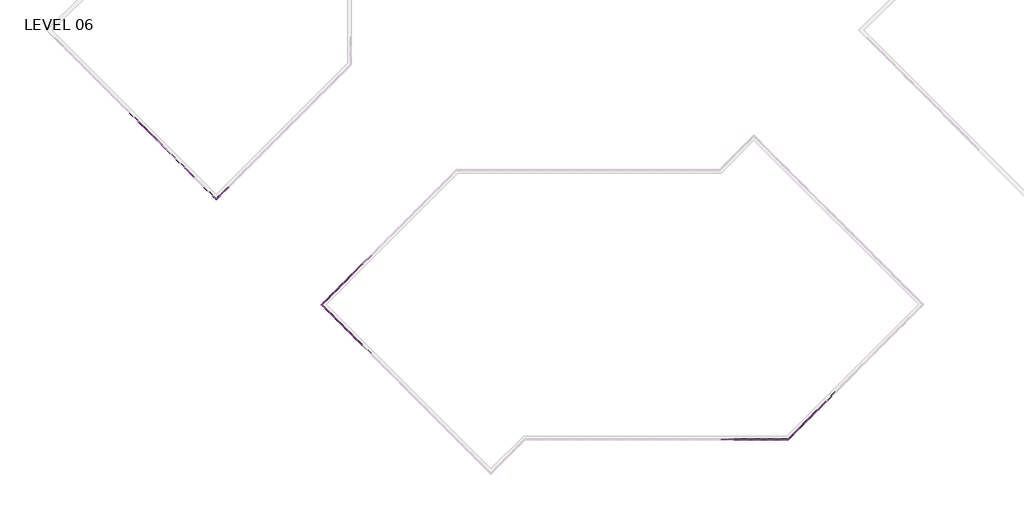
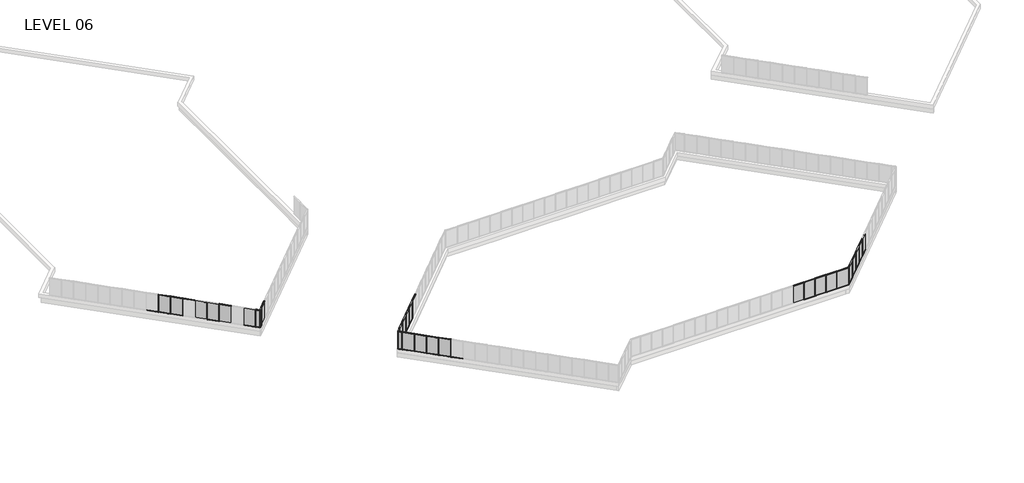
# One storey, part 2 of 17: 84 members, 29 plates.
"""IFC4 building model written with IfcOpenShell, lengths in millimetres."""

from ifc_helpers import new_model, si_unit, origin, place, context, project, spatial, transform, mapped, element, save
from components import member_5247f267, member_e44af9ab, member_800970d4, member_1bd862b2, member_7ca0f77f, member_25b26a38, member_ed9c17d6, plate_67294edd, plate_bbcbcabf, plate_3fb62afd, plate_6d527a83, plate_e0fd5134, plate_62af1d3c, plate_048e4634

model = new_model("IFC4")

# Units and contexts
model_context = context("Model", 3, world=origin())
ifc_project = project(units=[si_unit("LENGTHUNIT", "METRE", prefix="MILLI")], contexts=[model_context])

# Site, building, storey
site = spatial("IfcSite", under=ifc_project)
building = spatial("IfcBuilding", under=site)
storey = spatial("IfcBuildingStorey", under=building, Name="LEVEL 06", Elevation=19596.1)

# Members
placement = place(None, origin())
member_shape = member_5247f267(model_context)
element("IfcMember", 1, ObjectType="Rectangular Mullion : 2\" x 4.5\" rectangular", at=placement, inside=storey, context=model_context, shape_type="MappedRepresentation", body=[
    mapped(member_shape, transform((44329.35, -5092.0171279, 19596.1), x_axis=(0.0, 0.0, -1.0), y_axis=(0.0, -1.0, 0.0), z_axis=(-1.0, 0.0, 0.0))),
])
element("IfcMember", 2, ObjectType="Rectangular Mullion : 2\" x 4.5\" rectangular", at=placement, inside=storey, context=model_context, shape_type="MappedRepresentation", body=[
    mapped(member_shape, transform((45853.35, -5092.0171279, 19596.1), x_axis=(0.0, 0.0, -1.0), y_axis=(0.0, -1.0, 0.0), z_axis=(-1.0, 0.0, 0.0))),
])
element("IfcMember", 3, ObjectType="Rectangular Mullion : 2\" x 4.5\" rectangular", at=placement, inside=storey, context=model_context, shape_type="MappedRepresentation", body=[
    mapped(member_shape, transform((42805.35, -5092.0171279, 19596.1), x_axis=(0.0, 0.0, -1.0), y_axis=(0.0, -1.0, 0.0), z_axis=(-1.0, 0.0, 0.0))),
])
element("IfcMember", 4, ObjectType="Rectangular Mullion : 2\" x 4.5\" rectangular", at=placement, inside=storey, context=model_context, shape_type="MappedRepresentation", body=[
    mapped(member_shape, transform((50254.2406419, -3879.4326216, 19596.1), x_axis=(0.0, 0.0, -1.0), y_axis=(0.7071067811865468, -0.7071067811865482, 0.0), z_axis=(-0.7071067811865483, -0.7071067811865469, 0.0))),
])
element("IfcMember", 5, ObjectType="Rectangular Mullion : 2\" x 4.5\" rectangular", at=placement, inside=storey, context=model_context, shape_type="MappedRepresentation", body=[
    mapped(member_shape, transform((51331.8713765, -2801.801887, 19596.1), x_axis=(0.0, 0.0, -1.0), y_axis=(0.7071067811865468, -0.7071067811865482, 0.0), z_axis=(-0.7071067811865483, -0.7071067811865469, 0.0))),
])
element("IfcMember", 6, ObjectType="Rectangular Mullion : 2\" x 4.5\" rectangular", at=placement, inside=storey, context=model_context, shape_type="MappedRepresentation", body=[
    mapped(member_shape, transform((52409.502111, -1724.1711525, 19596.1), x_axis=(0.0, 0.0, -1.0), y_axis=(0.7071067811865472, -0.7071067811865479, 0.0), z_axis=(-0.7071067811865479, -0.7071067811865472, 0.0))),
])
element("IfcMember", 7, ObjectType="Rectangular Mullion : 2\" x 4.5\" rectangular", at=placement, inside=storey, context=model_context, shape_type="MappedRepresentation", body=[
    mapped(member_shape, transform((53487.1328455, -646.540418, 19596.1), x_axis=(0.0, 0.0, -1.0), y_axis=(0.7071067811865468, -0.7071067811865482, 0.0), z_axis=(-0.7071067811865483, -0.7071067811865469, 0.0))),
])
element("IfcMember", 8, ObjectType="Rectangular Mullion : 2\" x 4.5\" rectangular", at=placement, inside=storey, context=model_context, shape_type="MappedRepresentation", body=[
    mapped(member_shape, transform((-1378.4693146, 14091.4196932, 19596.1), x_axis=(0.0, 0.0, -1.0), y_axis=(-0.7071067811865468, 0.7071067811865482, 0.0), z_axis=(0.7071067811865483, 0.7071067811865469, 0.0))),
])
element("IfcMember", 9, ObjectType="Rectangular Mullion : 2\" x 4.5\" rectangular", at=placement, inside=storey, context=model_context, shape_type="MappedRepresentation", body=[
    mapped(member_shape, transform((-300.8459809, 15169.0430268, 19596.1), x_axis=(0.0, 0.0, -1.0), y_axis=(-0.7071067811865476, 0.7071067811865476, 0.0), z_axis=(0.7071067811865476, 0.7071067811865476, 0.0))),
])
element("IfcMember", 10, ObjectType="Rectangular Mullion : 2\" x 4.5\" rectangular", at=placement, inside=storey, context=model_context, shape_type="MappedRepresentation", body=[
    mapped(member_shape, transform((-2456.1000491, 13013.7889586, 19596.1), x_axis=(0.0, 0.0, -1.0), y_axis=(-0.7071067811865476, 0.7071067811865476, 0.0), z_axis=(0.7071067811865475, 0.7071067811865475, 0.0))),
])
element("IfcMember", 11, ObjectType="Rectangular Mullion : 2\" x 4.5\" rectangular", at=placement, inside=storey, context=model_context, shape_type="MappedRepresentation", body=[
    mapped(member_shape, transform((-3533.7307836, 11936.1582241, 19596.1), x_axis=(0.0, 0.0, -1.0), y_axis=(-0.7071067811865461, 0.7071067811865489, 0.0), z_axis=(0.7071067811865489, 0.7071067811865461, 0.0))),
])
element("IfcMember", 12, ObjectType="Rectangular Mullion : 2\" x 4.5\" rectangular", at=placement, inside=storey, context=model_context, shape_type="MappedRepresentation", body=[
    mapped(member_shape, transform((-2420.1790246, 7938.4057611, 19596.1), x_axis=(0.0, 0.0, -1.0), y_axis=(-0.7071067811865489, -0.7071067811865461, 0.0), z_axis=(-0.7071067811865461, 0.7071067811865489, 0.0))),
])
element("IfcMember", 13, ObjectType="Rectangular Mullion : 2\" x 4.5\" rectangular", at=placement, inside=storey, context=model_context, shape_type="MappedRepresentation", body=[
    mapped(member_shape, transform((-1342.5482901, 6860.7750266, 19596.1), x_axis=(0.0, 0.0, -1.0), y_axis=(-0.7071067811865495, -0.7071067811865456, 0.0), z_axis=(-0.7071067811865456, 0.7071067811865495, 0.0))),
])
element("IfcMember", 14, ObjectType="Rectangular Mullion : 2\" x 4.5\" rectangular", at=placement, inside=storey, context=model_context, shape_type="MappedRepresentation", body=[
    mapped(member_shape, transform((-3497.8097592, 9016.0364956, 19596.1), x_axis=(0.0, 0.0, -1.0), y_axis=(-0.7071067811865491, -0.7071067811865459, 0.0), z_axis=(-0.7071067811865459, 0.7071067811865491, 0.0))),
])
element("IfcMember", 15, ObjectType="Rectangular Mullion : 2\" x 4.5\" rectangular", at=placement, inside=storey, context=model_context, shape_type="MappedRepresentation", body=[
    mapped(member_shape, transform((-4575.4404937, 10093.6672302, 19596.1), x_axis=(0.0, 0.0, -1.0), y_axis=(-0.7071067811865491, -0.707106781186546, 0.0), z_axis=(-0.707106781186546, 0.7071067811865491, 0.0))),
])
element("IfcMember", 16, ObjectType="Rectangular Mullion : 2\" x 4.5\" rectangular", at=placement, inside=storey, context=model_context, shape_type="MappedRepresentation", body=[
    mapped(member_shape, transform((-264.9354228, 5783.1621593, 19596.1), x_axis=(0.0, 0.0, -1.0), y_axis=(-0.7071067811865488, -0.7071067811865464, 0.0), z_axis=(-0.7071067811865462, 0.7071067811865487, 0.0))),
])
element("IfcMember", 17, ObjectType="Rectangular Mullion : 2\" x 4.5\" rectangular", at=placement, inside=storey, context=model_context, shape_type="MappedRepresentation", body=[
    mapped(member_shape, transform((44278.55, -5092.0171279, 22186.9), x_axis=(0.0, 0.0, 1.0), y_axis=(0.0, -1.0, 0.0), z_axis=(1.0, 0.0, 0.0))),
])
element("IfcMember", 18, ObjectType="Rectangular Mullion : 2\" x 4.5\" rectangular", at=placement, inside=storey, context=model_context, shape_type="MappedRepresentation", body=[
    mapped(member_shape, transform((45802.55, -5092.0171279, 22186.9), x_axis=(0.0, 0.0, 1.0), y_axis=(0.0, -1.0, 0.0), z_axis=(1.0, 0.0, 0.0))),
])
element("IfcMember", 19, ObjectType="Rectangular Mullion : 2\" x 4.5\" rectangular", at=placement, inside=storey, context=model_context, shape_type="MappedRepresentation", body=[
    mapped(member_shape, transform((42754.55, -5092.0171279, 22186.9), x_axis=(0.0, 0.0, 1.0), y_axis=(0.0, -1.0, 0.0), z_axis=(1.0, 0.0, 0.0))),
])
element("IfcMember", 20, ObjectType="Rectangular Mullion : 2\" x 4.5\" rectangular", at=placement, inside=storey, context=model_context, shape_type="MappedRepresentation", body=[
    mapped(member_shape, transform((47326.55, -5092.0171279, 22186.9), x_axis=(0.0, 0.0, 1.0), y_axis=(0.0, -1.0, 0.0), z_axis=(1.0, 0.0, 0.0))),
])
element("IfcMember", 21, ObjectType="Rectangular Mullion : 2\" x 4.5\" rectangular", at=placement, inside=storey, context=model_context, shape_type="MappedRepresentation", body=[
    mapped(member_shape, transform((51295.950352, -2837.7229115, 22186.9), x_axis=(0.0, 0.0, 1.0), y_axis=(0.7071067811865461, -0.7071067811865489, 0.0), z_axis=(0.7071067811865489, 0.7071067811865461, 0.0))),
])
element("IfcMember", 22, ObjectType="Rectangular Mullion : 2\" x 4.5\" rectangular", at=placement, inside=storey, context=model_context, shape_type="MappedRepresentation", body=[
    mapped(member_shape, transform((52373.5810865, -1760.092177, 22186.9), x_axis=(0.0, 0.0, 1.0), y_axis=(0.7071067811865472, -0.7071067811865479, 0.0), z_axis=(0.7071067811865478, 0.7071067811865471, 0.0))),
])
element("IfcMember", 23, ObjectType="Rectangular Mullion : 2\" x 4.5\" rectangular", at=placement, inside=storey, context=model_context, shape_type="MappedRepresentation", body=[
    mapped(member_shape, transform((53451.211821, -682.4614425, 22186.9), x_axis=(0.0, 0.0, 1.0), y_axis=(0.7071067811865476, -0.7071067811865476, 0.0), z_axis=(0.7071067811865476, 0.7071067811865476, 0.0))),
])
element("IfcMember", 24, ObjectType="Rectangular Mullion : 2\" x 4.5\" rectangular", at=placement, inside=storey, context=model_context, shape_type="MappedRepresentation", body=[
    mapped(member_shape, transform((-1342.5482901, 14127.3407176, 22186.9), x_axis=(0.0, 0.0, 1.0), y_axis=(-0.7071067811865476, 0.7071067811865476, 0.0), z_axis=(-0.7071067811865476, -0.7071067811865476, 0.0))),
])
element("IfcMember", 25, ObjectType="Rectangular Mullion : 2\" x 4.5\" rectangular", at=placement, inside=storey, context=model_context, shape_type="MappedRepresentation", body=[
    mapped(member_shape, transform((-264.9249564, 15204.9640513, 22186.9), x_axis=(0.0, 0.0, 1.0), y_axis=(-0.7071067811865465, 0.7071067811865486, 0.0), z_axis=(-0.7071067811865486, -0.7071067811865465, 0.0))),
])
element("IfcMember", 26, ObjectType="Rectangular Mullion : 2\" x 4.5\" rectangular", at=placement, inside=storey, context=model_context, shape_type="MappedRepresentation", body=[
    mapped(member_shape, transform((-2420.1790246, 13049.7099831, 22186.9), x_axis=(0.0, 0.0, 1.0), y_axis=(-0.7071067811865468, 0.7071067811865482, 0.0), z_axis=(-0.7071067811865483, -0.7071067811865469, 0.0))),
])
element("IfcMember", 27, ObjectType="Rectangular Mullion : 2\" x 4.5\" rectangular", at=placement, inside=storey, context=model_context, shape_type="MappedRepresentation", body=[
    mapped(member_shape, transform((-3497.8097592, 11972.0792486, 22186.9), x_axis=(0.0, 0.0, 1.0), y_axis=(-0.7071067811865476, 0.7071067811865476, 0.0), z_axis=(-0.7071067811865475, -0.7071067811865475, 0.0))),
])
element("IfcMember", 28, ObjectType="Rectangular Mullion : 2\" x 4.5\" rectangular", at=placement, inside=storey, context=model_context, shape_type="MappedRepresentation", body=[
    mapped(member_shape, transform((-4575.4404937, 10894.4485141, 22186.9), x_axis=(0.0, 0.0, 1.0), y_axis=(-0.7071067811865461, 0.7071067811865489, 0.0), z_axis=(-0.7071067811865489, -0.7071067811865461, 0.0))),
])
element("IfcMember", 29, ObjectType="Rectangular Mullion : 2\" x 4.5\" rectangular", at=placement, inside=storey, context=model_context, shape_type="MappedRepresentation", body=[
    mapped(member_shape, transform((-2456.1000491, 7974.3267856, 22186.9), x_axis=(0.0, 0.0, 1.0), y_axis=(-0.7071067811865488, -0.7071067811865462, 0.0), z_axis=(0.7071067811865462, -0.7071067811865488, 0.0))),
])
element("IfcMember", 30, ObjectType="Rectangular Mullion : 2\" x 4.5\" rectangular", at=placement, inside=storey, context=model_context, shape_type="MappedRepresentation", body=[
    mapped(member_shape, transform((-1378.4693146, 6896.6960511, 22186.9), x_axis=(0.0, 0.0, 1.0), y_axis=(-0.7071067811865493, -0.7071067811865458, 0.0), z_axis=(0.7071067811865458, -0.7071067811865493, 0.0))),
])
element("IfcMember", 31, ObjectType="Rectangular Mullion : 2\" x 4.5\" rectangular", at=placement, inside=storey, context=model_context, shape_type="MappedRepresentation", body=[
    mapped(member_shape, transform((-3533.7307836, 9051.9575201, 22186.9), x_axis=(0.0, 0.0, 1.0), y_axis=(-0.7071067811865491, -0.707106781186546, 0.0), z_axis=(0.707106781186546, -0.7071067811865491, 0.0))),
])
element("IfcMember", 32, ObjectType="Rectangular Mullion : 2\" x 4.5\" rectangular", at=placement, inside=storey, context=model_context, shape_type="MappedRepresentation", body=[
    mapped(member_shape, transform((-300.8564473, 5819.0831838, 22186.9), x_axis=(0.0, 0.0, 1.0), y_axis=(-0.7071067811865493, -0.7071067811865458, 0.0), z_axis=(0.7071067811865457, -0.7071067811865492, 0.0))),
])
member_2_shape = member_e44af9ab(model_context)
element("IfcMember", 33, ObjectType="Rectangular Mullion : 2\" x 4.5\" rectangular", at=placement, inside=storey, context=model_context, shape_type="MappedRepresentation", body=[
    mapped(member_2_shape, transform((44303.95, -5092.0171279, 19596.1), x_axis=(1.0, 0.0, 0.0), y_axis=(0.0, -1.0, 0.0), z_axis=(0.0, 0.0, -1.0))),
])
element("IfcMember", 34, ObjectType="Rectangular Mullion : 2\" x 4.5\" rectangular", at=placement, inside=storey, context=model_context, shape_type="MappedRepresentation", body=[
    mapped(member_2_shape, transform((45827.95, -5092.0171279, 19596.1), x_axis=(1.0, 0.0, 0.0), y_axis=(0.0, -1.0, 0.0), z_axis=(0.0, 0.0, -1.0))),
])
element("IfcMember", 35, ObjectType="Rectangular Mullion : 2\" x 4.5\" rectangular", at=placement, inside=storey, context=model_context, shape_type="MappedRepresentation", body=[
    mapped(member_2_shape, transform((42779.95, -5092.0171279, 19596.1), x_axis=(1.0, 0.0, 0.0), y_axis=(0.0, -1.0, 0.0), z_axis=(0.0, 0.0, -1.0))),
])
element("IfcMember", 36, ObjectType="Rectangular Mullion : 2\" x 4.5\" rectangular", at=placement, inside=storey, context=model_context, shape_type="MappedRepresentation", body=[
    mapped(member_2_shape, transform((47351.95, -5092.0171279, 19596.1), x_axis=(1.0, 0.0, 0.0), y_axis=(0.0, -1.0, 0.0), z_axis=(0.0, 0.0, -1.0))),
])
element("IfcMember", 37, ObjectType="Rectangular Mullion : 2\" x 4.5\" rectangular", at=placement, inside=storey, context=model_context, shape_type="MappedRepresentation", body=[
    mapped(member_2_shape, transform((50236.2801297, -3897.3931338, 19596.1), x_axis=(0.7071067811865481, 0.7071067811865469, 0.0), y_axis=(0.7071067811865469, -0.7071067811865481, 0.0), z_axis=(0.0, 0.0, -1.0))),
])
element("IfcMember", 38, ObjectType="Rectangular Mullion : 2\" x 4.5\" rectangular", at=placement, inside=storey, context=model_context, shape_type="MappedRepresentation", body=[
    mapped(member_2_shape, transform((51313.9108642, -2819.7623993, 19596.1), x_axis=(0.7071067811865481, 0.7071067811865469, 0.0), y_axis=(0.7071067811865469, -0.7071067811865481, 0.0), z_axis=(0.0, 0.0, -1.0))),
])
element("IfcMember", 39, ObjectType="Rectangular Mullion : 2\" x 4.5\" rectangular", at=placement, inside=storey, context=model_context, shape_type="MappedRepresentation", body=[
    mapped(member_2_shape, transform((52391.5415988, -1742.1316648, 19596.1), x_axis=(0.7071067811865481, 0.7071067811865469, 0.0), y_axis=(0.7071067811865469, -0.7071067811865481, 0.0), z_axis=(0.0, 0.0, -1.0))),
])
element("IfcMember", 40, ObjectType="Rectangular Mullion : 2\" x 4.5\" rectangular", at=placement, inside=storey, context=model_context, shape_type="MappedRepresentation", body=[
    mapped(member_2_shape, transform((53469.1723333, -664.5009302, 19596.1), x_axis=(0.7071067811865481, 0.7071067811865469, 0.0), y_axis=(0.7071067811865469, -0.7071067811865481, 0.0), z_axis=(0.0, 0.0, -1.0))),
])
element("IfcMember", 41, ObjectType="Rectangular Mullion : 2\" x 4.5\" rectangular", at=placement, inside=storey, context=model_context, shape_type="MappedRepresentation", body=[
    mapped(member_2_shape, transform((-1360.5088023, 14109.3802054, 19596.1), x_axis=(-0.7071067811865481, -0.7071067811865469, 0.0), y_axis=(-0.7071067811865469, 0.7071067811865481, 0.0), z_axis=(0.0, 0.0, -1.0))),
])
element("IfcMember", 42, ObjectType="Rectangular Mullion : 2\" x 4.5\" rectangular", at=placement, inside=storey, context=model_context, shape_type="MappedRepresentation", body=[
    mapped(member_2_shape, transform((-282.8854687, 15187.0035391, 19596.1), x_axis=(-0.7071067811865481, -0.7071067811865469, 0.0), y_axis=(-0.7071067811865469, 0.7071067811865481, 0.0), z_axis=(0.0, 0.0, -1.0))),
])
element("IfcMember", 43, ObjectType="Rectangular Mullion : 2\" x 4.5\" rectangular", at=placement, inside=storey, context=model_context, shape_type="MappedRepresentation", body=[
    mapped(member_2_shape, transform((-2438.1395369, 13031.7494709, 19596.1), x_axis=(-0.7071067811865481, -0.7071067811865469, 0.0), y_axis=(-0.7071067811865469, 0.7071067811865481, 0.0), z_axis=(0.0, 0.0, -1.0))),
])
element("IfcMember", 44, ObjectType="Rectangular Mullion : 2\" x 4.5\" rectangular", at=placement, inside=storey, context=model_context, shape_type="MappedRepresentation", body=[
    mapped(member_2_shape, transform((-3515.7702714, 11954.1187363, 19596.1), x_axis=(-0.7071067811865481, -0.7071067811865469, 0.0), y_axis=(-0.7071067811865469, 0.7071067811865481, 0.0), z_axis=(0.0, 0.0, -1.0))),
])
element("IfcMember", 45, ObjectType="Rectangular Mullion : 2\" x 4.5\" rectangular", at=placement, inside=storey, context=model_context, shape_type="MappedRepresentation", body=[
    mapped(member_2_shape, transform((-4593.4010059, 10876.4880018, 19596.1), x_axis=(-0.7071067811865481, -0.7071067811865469, 0.0), y_axis=(-0.7071067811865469, 0.7071067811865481, 0.0), z_axis=(0.0, 0.0, -1.0))),
])
element("IfcMember", 46, ObjectType="Rectangular Mullion : 2\" x 4.5\" rectangular", at=placement, inside=storey, context=model_context, shape_type="MappedRepresentation", body=[
    mapped(member_2_shape, transform((-2438.1395369, 7956.3662734, 19596.1), x_axis=(0.7071067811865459, -0.7071067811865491, 0.0), y_axis=(-0.7071067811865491, -0.7071067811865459, 0.0), z_axis=(0.0, 0.0, -1.0))),
])
element("IfcMember", 47, ObjectType="Rectangular Mullion : 2\" x 4.5\" rectangular", at=placement, inside=storey, context=model_context, shape_type="MappedRepresentation", body=[
    mapped(member_2_shape, transform((-1360.5088023, 6878.7355388, 19596.1), x_axis=(0.7071067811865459, -0.7071067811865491, 0.0), y_axis=(-0.7071067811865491, -0.7071067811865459, 0.0), z_axis=(0.0, 0.0, -1.0))),
])
element("IfcMember", 48, ObjectType="Rectangular Mullion : 2\" x 4.5\" rectangular", at=placement, inside=storey, context=model_context, shape_type="MappedRepresentation", body=[
    mapped(member_2_shape, transform((-3515.7702714, 9033.9970079, 19596.1), x_axis=(0.7071067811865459, -0.7071067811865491, 0.0), y_axis=(-0.7071067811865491, -0.7071067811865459, 0.0), z_axis=(0.0, 0.0, -1.0))),
])
element("IfcMember", 49, ObjectType="Rectangular Mullion : 2\" x 4.5\" rectangular", at=placement, inside=storey, context=model_context, shape_type="MappedRepresentation", body=[
    mapped(member_2_shape, transform((-4593.4010059, 10111.6277424, 19596.1), x_axis=(0.7071067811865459, -0.7071067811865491, 0.0), y_axis=(-0.7071067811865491, -0.7071067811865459, 0.0), z_axis=(0.0, 0.0, -1.0))),
])
element("IfcMember", 50, ObjectType="Rectangular Mullion : 2\" x 4.5\" rectangular", at=placement, inside=storey, context=model_context, shape_type="MappedRepresentation", body=[
    mapped(member_2_shape, transform((-282.8959351, 5801.1226716, 19596.1), x_axis=(0.7071067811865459, -0.7071067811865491, 0.0), y_axis=(-0.7071067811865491, -0.7071067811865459, 0.0), z_axis=(0.0, 0.0, -1.0))),
])
member_3_shape = member_800970d4(model_context)
element("IfcMember", 51, ObjectType="Rectangular Mullion : 2\" x 4.5\" rectangular", at=placement, inside=storey, context=model_context, shape_type="MappedRepresentation", body=[
    mapped(member_3_shape, transform((49041.6561356, -5092.0171279, 19596.1), x_axis=(1.0, 0.0, 0.0), y_axis=(0.0, -1.0, 0.0), z_axis=(0.0, 0.0, -1.0))),
])
element("IfcMember", 52, ObjectType="Rectangular Mullion : 2\" x 4.5\" rectangular", at=placement, inside=storey, context=model_context, shape_type="MappedRepresentation", body=[
    mapped(member_3_shape, transform((-4975.8311356, 10494.0578721, 19596.1), x_axis=(-0.7071067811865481, -0.7071067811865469, 0.0), y_axis=(-0.7071067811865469, 0.7071067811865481, 0.0), z_axis=(0.0, 0.0, -1.0))),
])
element("IfcMember", 53, ObjectType="Rectangular Mullion : 2\" x 4.5\" rectangular", at=placement, inside=storey, context=model_context, shape_type="MappedRepresentation", body=[
    mapped(member_3_shape, transform((49041.6561356, -5092.0171279, 22186.9), x_axis=(-0.7071067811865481, -0.7071067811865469, 0.0), y_axis=(0.7071067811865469, -0.7071067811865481, 0.0), z_axis=(0.0, 0.0, 1.0))),
])
element("IfcMember", 54, ObjectType="Rectangular Mullion : 2\" x 4.5\" rectangular", at=placement, inside=storey, context=model_context, shape_type="MappedRepresentation", body=[
    mapped(member_3_shape, transform((-4975.8311356, 10494.0578721, 22186.9), x_axis=(-0.7071067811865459, 0.7071067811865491, 0.0), y_axis=(-0.7071067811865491, -0.7071067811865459, 0.0), z_axis=(0.0, 0.0, 1.0))),
])
member_4_shape = member_1bd862b2(model_context)
element("IfcMember", 55, ObjectType="Rectangular Mullion : 2\" x 4.5\" rectangular", at=placement, inside=storey, context=model_context, shape_type="MappedRepresentation", body=[
    mapped(member_4_shape, transform((48990.8561356, -5092.0171279, 22186.9), x_axis=(0.0, 0.0, 1.0), y_axis=(0.0, -1.0, 0.0), z_axis=(1.0, 0.0, 0.0))),
])
element("IfcMember", 56, ObjectType="Rectangular Mullion : 2\" x 4.5\" rectangular", at=placement, inside=storey, context=model_context, shape_type="MappedRepresentation", body=[
    mapped(member_4_shape, transform((47377.35, -5092.0171279, 19596.1), x_axis=(0.0, 0.0, -1.0), y_axis=(0.0, -1.0, 0.0), z_axis=(-1.0, 0.0, 0.0))),
])
member_5_shape = member_7ca0f77f(model_context)
element("IfcMember", 57, ObjectType="Rectangular Mullion : 2\" x 4.5\" rectangular", at=placement, inside=storey, context=model_context, shape_type="MappedRepresentation", body=[
    mapped(member_5_shape, transform((50218.3196175, -3915.3536461, 22186.9), x_axis=(0.0, 0.0, 1.0), y_axis=(0.7071067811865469, -0.7071067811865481, 0.0), z_axis=(0.7071067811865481, 0.7071067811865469, 0.0))),
])
element("IfcMember", 58, ObjectType="Rectangular Mullion : 2\" x 4.5\" rectangular", at=placement, inside=storey, context=model_context, shape_type="MappedRepresentation", body=[
    mapped(member_5_shape, transform((49077.5771601, -5056.0961034, 19596.1), x_axis=(0.0, 0.0, -1.0), y_axis=(0.7071067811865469, -0.7071067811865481, 0.0), z_axis=(-0.7071067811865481, -0.7071067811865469, 0.0))),
])
member_6_shape = member_25b26a38(model_context)
element("IfcMember", 59, ObjectType="Rectangular Mullion : 2\" x 4.5\" rectangular", at=placement, inside=storey, context=model_context, shape_type="MappedRepresentation", body=[
    mapped(member_6_shape, transform((-4611.3615182, 10858.5274896, 19596.1), x_axis=(0.0, 0.0, -1.0), y_axis=(-0.7071067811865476, 0.7071067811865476, 0.0), z_axis=(0.7071067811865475, 0.7071067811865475, 0.0))),
])
element("IfcMember", 60, ObjectType="Rectangular Mullion : 2\" x 4.5\" rectangular", at=placement, inside=storey, context=model_context, shape_type="MappedRepresentation", body=[
    mapped(member_6_shape, transform((-4939.9101111, 10458.1368476, 19596.1), x_axis=(0.0, 0.0, -1.0), y_axis=(-0.7071067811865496, -0.7071067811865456, 0.0), z_axis=(-0.7071067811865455, 0.7071067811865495, 0.0))),
])
element("IfcMember", 61, ObjectType="Rectangular Mullion : 2\" x 4.5\" rectangular", at=placement, inside=storey, context=model_context, shape_type="MappedRepresentation", body=[
    mapped(member_6_shape, transform((-4939.9101111, 10529.9788966, 22186.9), x_axis=(0.0, 0.0, 1.0), y_axis=(-0.7071067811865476, 0.7071067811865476, 0.0), z_axis=(-0.7071067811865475, -0.7071067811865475, 0.0))),
])
element("IfcMember", 62, ObjectType="Rectangular Mullion : 2\" x 4.5\" rectangular", at=placement, inside=storey, context=model_context, shape_type="MappedRepresentation", body=[
    mapped(member_6_shape, transform((-4611.3615182, 10129.5882547, 22186.9), x_axis=(0.0, 0.0, 1.0), y_axis=(-0.707106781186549, -0.707106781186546, 0.0), z_axis=(0.707106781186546, -0.707106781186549, 0.0))),
])
element("IfcMember", 63, ObjectType="Rectangular Mullion : 2\" x 4.5\" rectangular", at=placement, inside=storey, context=model_context, shape_type="MappedRepresentation", body=[
    mapped(member_shape, transform((-16797.5690745, 23116.5770948, 22186.9), x_axis=(0.0, 0.0, 1.0), y_axis=(-0.7071067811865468, 0.7071067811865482, 0.0), z_axis=(-0.7071067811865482, -0.7071067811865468, 0.0))),
])
element("IfcMember", 64, ObjectType="Rectangular Mullion : 2\" x 4.5\" rectangular", at=placement, inside=storey, context=model_context, shape_type="MappedRepresentation", body=[
    mapped(member_shape, transform((-20795.3215374, 26313.5482739, 22186.9), x_axis=(0.0, 0.0, 1.0), y_axis=(0.7071067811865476, 0.7071067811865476, 0.0), z_axis=(-0.7071067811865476, 0.7071067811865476, 0.0))),
])
element("IfcMember", 65, ObjectType="Rectangular Mullion : 2\" x 4.5\" rectangular", at=placement, inside=storey, context=model_context, shape_type="MappedRepresentation", body=[
    mapped(member_shape, transform((-24028.142272, 29546.3690085, 22186.9), x_axis=(0.0, 0.0, 1.0), y_axis=(0.707106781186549, 0.7071067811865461, 0.0), z_axis=(-0.7071067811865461, 0.707106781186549, 0.0))),
])
element("IfcMember", 66, ObjectType="Rectangular Mullion : 2\" x 4.5\" rectangular", at=placement, inside=storey, context=model_context, shape_type="MappedRepresentation", body=[
    mapped(member_shape, transform((-25105.737272, 30623.9640085, 22186.9), x_axis=(0.0, 0.0, 1.0), y_axis=(0.7071067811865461, 0.707106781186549, 0.0), z_axis=(-0.707106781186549, 0.7071067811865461, 0.0))),
])
element("IfcMember", 67, ObjectType="Rectangular Mullion : 2\" x 4.5\" rectangular", at=placement, inside=storey, context=model_context, shape_type="MappedRepresentation", body=[
    mapped(member_shape, transform((-26183.332272, 31701.5590085, 22186.9), x_axis=(0.0, 0.0, 1.0), y_axis=(0.7071067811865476, 0.7071067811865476, 0.0), z_axis=(-0.7071067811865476, 0.7071067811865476, 0.0))),
])
element("IfcMember", 68, ObjectType="Rectangular Mullion : 2\" x 4.5\" rectangular", at=placement, inside=storey, context=model_context, shape_type="MappedRepresentation", body=[
    mapped(member_shape, transform((-20831.2425619, 26349.4692984, 19596.1), x_axis=(0.0, 0.0, -1.0), y_axis=(0.7071067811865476, 0.7071067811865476, 0.0), z_axis=(0.7071067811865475, -0.7071067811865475, 0.0))),
])
element("IfcMember", 69, ObjectType="Rectangular Mullion : 2\" x 4.5\" rectangular", at=placement, inside=storey, context=model_context, shape_type="MappedRepresentation", body=[
    mapped(member_shape, transform((-24064.0632965, 29582.2900329, 19596.1), x_axis=(0.0, 0.0, -1.0), y_axis=(0.7071067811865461, 0.707106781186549, 0.0), z_axis=(0.707106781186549, -0.7071067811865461, 0.0))),
])
element("IfcMember", 70, ObjectType="Rectangular Mullion : 2\" x 4.5\" rectangular", at=placement, inside=storey, context=model_context, shape_type="MappedRepresentation", body=[
    mapped(member_shape, transform((-25141.6582965, 30659.8850329, 19596.1), x_axis=(0.0, 0.0, -1.0), y_axis=(0.7071067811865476, 0.7071067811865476, 0.0), z_axis=(0.7071067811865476, -0.7071067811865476, 0.0))),
])
element("IfcMember", 71, ObjectType="Rectangular Mullion : 2\" x 4.5\" rectangular", at=placement, inside=storey, context=model_context, shape_type="MappedRepresentation", body=[
    mapped(member_shape, transform((-17598.3503583, 23116.5770948, 19596.1), x_axis=(0.0, 0.0, -1.0), y_axis=(0.7071067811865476, 0.7071067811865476, 0.0), z_axis=(0.7071067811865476, -0.7071067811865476, 0.0))),
])
element("IfcMember", 72, ObjectType="Rectangular Mullion : 2\" x 4.5\" rectangular", at=placement, inside=storey, context=model_context, shape_type="MappedRepresentation", body=[
    mapped(member_2_shape, transform((-16815.5295867, 23098.6165826, 19596.1), x_axis=(-0.7071067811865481, -0.7071067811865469, 0.0), y_axis=(-0.7071067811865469, 0.7071067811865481, 0.0), z_axis=(0.0, 0.0, -1.0))),
])
element("IfcMember", 73, ObjectType="Rectangular Mullion : 2\" x 4.5\" rectangular", at=placement, inside=storey, context=model_context, shape_type="MappedRepresentation", body=[
    mapped(member_2_shape, transform((-20813.2820497, 26331.5087862, 19596.1), x_axis=(-0.7071067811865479, 0.7071067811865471, 0.0), y_axis=(0.7071067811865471, 0.7071067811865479, 0.0), z_axis=(0.0, 0.0, -1.0))),
])
element("IfcMember", 74, ObjectType="Rectangular Mullion : 2\" x 4.5\" rectangular", at=placement, inside=storey, context=model_context, shape_type="MappedRepresentation", body=[
    mapped(member_2_shape, transform((-24046.1027842, 29564.3295207, 19596.1), x_axis=(-0.7071067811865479, 0.7071067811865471, 0.0), y_axis=(0.7071067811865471, 0.7071067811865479, 0.0), z_axis=(0.0, 0.0, -1.0))),
])
element("IfcMember", 75, ObjectType="Rectangular Mullion : 2\" x 4.5\" rectangular", at=placement, inside=storey, context=model_context, shape_type="MappedRepresentation", body=[
    mapped(member_2_shape, transform((-25123.6977842, 30641.9245207, 19596.1), x_axis=(-0.7071067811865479, 0.7071067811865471, 0.0), y_axis=(0.7071067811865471, 0.7071067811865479, 0.0), z_axis=(0.0, 0.0, -1.0))),
])
element("IfcMember", 76, ObjectType="Rectangular Mullion : 2\" x 4.5\" rectangular", at=placement, inside=storey, context=model_context, shape_type="MappedRepresentation", body=[
    mapped(member_2_shape, transform((-26201.2927842, 31719.5195207, 19596.1), x_axis=(-0.7071067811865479, 0.7071067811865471, 0.0), y_axis=(0.7071067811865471, 0.7071067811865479, 0.0), z_axis=(0.0, 0.0, -1.0))),
])
element("IfcMember", 77, ObjectType="Rectangular Mullion : 2\" x 4.5\" rectangular", at=placement, inside=storey, context=model_context, shape_type="MappedRepresentation", body=[
    mapped(member_2_shape, transform((-17580.3898461, 23098.6165826, 19596.1), x_axis=(-0.7071067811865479, 0.7071067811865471, 0.0), y_axis=(0.7071067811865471, 0.7071067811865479, 0.0), z_axis=(0.0, 0.0, -1.0))),
])
element("IfcMember", 78, ObjectType="Rectangular Mullion : 2\" x 4.5\" rectangular", at=placement, inside=storey, context=model_context, shape_type="MappedRepresentation", body=[
    mapped(member_3_shape, transform((-17197.9597164, 22716.1864529, 19596.1), x_axis=(-0.7071067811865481, -0.7071067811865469, 0.0), y_axis=(-0.7071067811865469, 0.7071067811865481, 0.0), z_axis=(0.0, 0.0, -1.0))),
])
element("IfcMember", 79, ObjectType="Rectangular Mullion : 2\" x 4.5\" rectangular", at=placement, inside=storey, context=model_context, shape_type="MappedRepresentation", body=[
    mapped(member_3_shape, transform((-17197.9597164, 22716.1864529, 22186.9), x_axis=(0.7071067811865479, -0.7071067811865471, 0.0), y_axis=(0.7071067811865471, 0.7071067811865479, 0.0), z_axis=(0.0, 0.0, 1.0))),
])
element("IfcMember", 80, ObjectType="Rectangular Mullion : 2\" x 4.5\" rectangular", at=placement, inside=storey, context=model_context, shape_type="MappedRepresentation", body=[
    mapped(member_6_shape, transform((-17162.0386919, 22752.1074774, 22186.9), x_axis=(0.0, 0.0, 1.0), y_axis=(-0.7071067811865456, 0.7071067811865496, 0.0), z_axis=(-0.7071067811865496, -0.7071067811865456, 0.0))),
])
element("IfcMember", 81, ObjectType="Rectangular Mullion : 2\" x 4.5\" rectangular", at=placement, inside=storey, context=model_context, shape_type="MappedRepresentation", body=[
    mapped(member_6_shape, transform((-17562.4293339, 23080.6560704, 22186.9), x_axis=(0.0, 0.0, 1.0), y_axis=(0.7071067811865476, 0.7071067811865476, 0.0), z_axis=(-0.7071067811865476, 0.7071067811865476, 0.0))),
])
element("IfcMember", 82, ObjectType="Rectangular Mullion : 2\" x 4.5\" rectangular", at=placement, inside=storey, context=model_context, shape_type="MappedRepresentation", body=[
    mapped(member_6_shape, transform((-16833.4900989, 23080.6560704, 19596.1), x_axis=(0.0, 0.0, -1.0), y_axis=(-0.7071067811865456, 0.7071067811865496, 0.0), z_axis=(0.7071067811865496, 0.7071067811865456, 0.0))),
])
element("IfcMember", 83, ObjectType="Rectangular Mullion : 2\" x 4.5\" rectangular", at=placement, inside=storey, context=model_context, shape_type="MappedRepresentation", body=[
    mapped(member_6_shape, transform((-17233.8807409, 22752.1074774, 19596.1), x_axis=(0.0, 0.0, -1.0), y_axis=(0.7071067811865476, 0.7071067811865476, 0.0), z_axis=(0.7071067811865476, -0.7071067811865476, 0.0))),
])
member_7_shape = member_ed9c17d6(model_context)
element("IfcMember", 84, ObjectType="Rectangular Mullion : 2\" x 4.5\" rectangular", at=placement, inside=storey, context=model_context, shape_type="MappedRepresentation", body=[
    mapped(member_7_shape, transform((-26219.2532965, 31737.4800329, 19596.1), x_axis=(0.0, 0.0, -1.0), y_axis=(0.7071067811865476, 0.7071067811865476, 0.0), z_axis=(0.7071067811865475, -0.7071067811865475, 0.0))),
])

# Plates
plate_shape = plate_67294edd(model_context)
element("IfcPlate", 85, ObjectType="System Panel : 1/4\" Glass", at=placement, inside=storey, context=model_context, shape_type="MappedRepresentation", body=[
    mapped(plate_shape, transform((45065.95, -5092.0171279, 19646.9), x_axis=(1.0, 0.0, 0.0), y_axis=(0.0, 1.0, 0.0), z_axis=(0.0, 0.0, 1.0))),
])
element("IfcPlate", 86, ObjectType="System Panel : 1/4\" Glass", at=placement, inside=storey, context=model_context, shape_type="MappedRepresentation", body=[
    mapped(plate_shape, transform((46589.95, -5092.0171279, 19646.9), x_axis=(1.0, 0.0, 0.0), y_axis=(0.0, 1.0, 0.0), z_axis=(0.0, 0.0, 1.0))),
])
element("IfcPlate", 87, ObjectType="System Panel : 1/4\" Glass", at=placement, inside=storey, context=model_context, shape_type="MappedRepresentation", body=[
    mapped(plate_shape, transform((42017.95, -5092.0171279, 19646.9), x_axis=(1.0, 0.0, 0.0), y_axis=(0.0, 1.0, 0.0), z_axis=(0.0, 0.0, 1.0))),
])
element("IfcPlate", 88, ObjectType="System Panel : 1/4\" Glass", at=placement, inside=storey, context=model_context, shape_type="MappedRepresentation", body=[
    mapped(plate_shape, transform((43541.95, -5092.0171279, 19646.9), x_axis=(1.0, 0.0, 0.0), y_axis=(0.0, 1.0, 0.0), z_axis=(0.0, 0.0, 1.0))),
])
element("IfcPlate", 89, ObjectType="System Panel : 1/4\" Glass", at=placement, inside=storey, context=model_context, shape_type="MappedRepresentation", body=[
    mapped(plate_shape, transform((50775.095497, -3358.5777665, 19646.9), x_axis=(0.7071067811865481, 0.7071067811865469, 0.0), y_axis=(-0.7071067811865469, 0.7071067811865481, 0.0), z_axis=(0.0, 0.0, 1.0))),
])
element("IfcPlate", 90, ObjectType="System Panel : 1/4\" Glass", at=placement, inside=storey, context=model_context, shape_type="MappedRepresentation", body=[
    mapped(plate_shape, transform((51852.7262315, -2280.947032, 19646.9), x_axis=(0.7071067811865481, 0.7071067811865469, 0.0), y_axis=(-0.7071067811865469, 0.7071067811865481, 0.0), z_axis=(0.0, 0.0, 1.0))),
])
element("IfcPlate", 91, ObjectType="System Panel : 1/4\" Glass", at=placement, inside=storey, context=model_context, shape_type="MappedRepresentation", body=[
    mapped(plate_shape, transform((52930.356966, -1203.3162975, 19646.9), x_axis=(0.7071067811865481, 0.7071067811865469, 0.0), y_axis=(-0.7071067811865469, 0.7071067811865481, 0.0), z_axis=(0.0, 0.0, 1.0))),
])
element("IfcPlate", 92, ObjectType="System Panel : 1/4\" Glass", at=placement, inside=storey, context=model_context, shape_type="MappedRepresentation", body=[
    mapped(plate_shape, transform((54007.9877005, -125.685563, 19646.9), x_axis=(0.7071067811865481, 0.7071067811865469, 0.0), y_axis=(-0.7071067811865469, 0.7071067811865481, 0.0), z_axis=(0.0, 0.0, 1.0))),
])
element("IfcPlate", 93, ObjectType="System Panel : 1/4\" Glass", at=placement, inside=storey, context=model_context, shape_type="MappedRepresentation", body=[
    mapped(plate_shape, transform((-1899.3241696, 13570.5648381, 19646.9), x_axis=(-0.7071067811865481, -0.7071067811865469, 0.0), y_axis=(0.7071067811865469, -0.7071067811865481, 0.0), z_axis=(0.0, 0.0, 1.0))),
])
element("IfcPlate", 94, ObjectType="System Panel : 1/4\" Glass", at=placement, inside=storey, context=model_context, shape_type="MappedRepresentation", body=[
    mapped(plate_shape, transform((-2976.9549041, 12492.9341036, 19646.9), x_axis=(-0.7071067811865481, -0.7071067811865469, 0.0), y_axis=(0.7071067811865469, -0.7071067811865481, 0.0), z_axis=(0.0, 0.0, 1.0))),
])
element("IfcPlate", 95, ObjectType="System Panel : 1/4\" Glass", at=placement, inside=storey, context=model_context, shape_type="MappedRepresentation", body=[
    mapped(plate_shape, transform((-4054.5856387, 11415.3033691, 19646.9), x_axis=(-0.7071067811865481, -0.7071067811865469, 0.0), y_axis=(0.7071067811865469, -0.7071067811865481, 0.0), z_axis=(0.0, 0.0, 1.0))),
])
element("IfcPlate", 96, ObjectType="System Panel : 1/4\" Glass", at=placement, inside=storey, context=model_context, shape_type="MappedRepresentation", body=[
    mapped(plate_shape, transform((-1899.3241696, 7417.5509061, 19646.9), x_axis=(0.7071067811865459, -0.7071067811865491, 0.0), y_axis=(0.7071067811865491, 0.7071067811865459, 0.0), z_axis=(0.0, 0.0, 1.0))),
])
element("IfcPlate", 97, ObjectType="System Panel : 1/4\" Glass", at=placement, inside=storey, context=model_context, shape_type="MappedRepresentation", body=[
    mapped(plate_shape, transform((-2976.9549041, 8495.1816406, 19646.9), x_axis=(0.7071067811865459, -0.7071067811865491, 0.0), y_axis=(0.7071067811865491, 0.7071067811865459, 0.0), z_axis=(0.0, 0.0, 1.0))),
])
element("IfcPlate", 98, ObjectType="System Panel : 1/4\" Glass", at=placement, inside=storey, context=model_context, shape_type="MappedRepresentation", body=[
    mapped(plate_shape, transform((-4054.5856387, 9572.8123752, 19646.9), x_axis=(0.7071067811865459, -0.7071067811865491, 0.0), y_axis=(0.7071067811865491, 0.7071067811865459, 0.0), z_axis=(0.0, 0.0, 1.0))),
])
plate_2_shape = plate_bbcbcabf(model_context)
element("IfcPlate", 99, ObjectType="System Panel : 1/4\" Glass", at=placement, inside=storey, context=model_context, shape_type="MappedRepresentation", body=[
    mapped(plate_2_shape, transform((48184.1030678, -5092.0171279, 19646.9), x_axis=(1.0, 0.0, 0.0), y_axis=(0.0, 1.0, 0.0), z_axis=(0.0, 0.0, 1.0))),
])
plate_3_shape = plate_3fb62afd(model_context)
element("IfcPlate", 100, ObjectType="System Panel : 1/4\" Glass", at=placement, inside=storey, context=model_context, shape_type="MappedRepresentation", body=[
    mapped(plate_3_shape, transform((49647.9483888, -4485.7248747, 19646.9), x_axis=(0.7071067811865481, 0.7071067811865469, 0.0), y_axis=(-0.7071067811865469, 0.7071067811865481, 0.0), z_axis=(0.0, 0.0, 1.0))),
])
plate_4_shape = plate_6d527a83(model_context)
element("IfcPlate", 101, ObjectType="System Panel : 1/4\" Glass", at=placement, inside=storey, context=model_context, shape_type="MappedRepresentation", body=[
    mapped(plate_4_shape, transform((-4775.6358147, 10694.2531931, 19646.9), x_axis=(-0.7071067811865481, -0.7071067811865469, 0.0), y_axis=(0.7071067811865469, -0.7071067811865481, 0.0), z_axis=(0.0, 0.0, 1.0))),
])
element("IfcPlate", 102, ObjectType="System Panel : 1/4\" Glass", at=placement, inside=storey, context=model_context, shape_type="MappedRepresentation", body=[
    mapped(plate_4_shape, transform((-4775.6358147, 10293.8625511, 19646.9), x_axis=(0.7071067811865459, -0.7071067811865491, 0.0), y_axis=(0.7071067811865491, 0.7071067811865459, 0.0), z_axis=(0.0, 0.0, 1.0))),
])
plate_5_shape = plate_e0fd5134(model_context)
element("IfcPlate", 103, ObjectType="System Panel : 1/4\" Glass", at=placement, inside=storey, context=model_context, shape_type="MappedRepresentation", body=[
    mapped(plate_5_shape, transform((-821.6971355, 14648.1918722, 19646.9), x_axis=(-0.7071067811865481, -0.7071067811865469, 0.0), y_axis=(0.7071067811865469, -0.7071067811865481, 0.0), z_axis=(0.0, 0.0, 1.0))),
])
plate_6_shape = plate_62af1d3c(model_context)
element("IfcPlate", 104, ObjectType="System Panel : 1/4\" Glass", at=placement, inside=storey, context=model_context, shape_type="MappedRepresentation", body=[
    mapped(plate_6_shape, transform((-821.7023687, 6339.9291052, 19646.9), x_axis=(0.7071067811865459, -0.7071067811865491, 0.0), y_axis=(0.7071067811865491, 0.7071067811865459, 0.0), z_axis=(0.0, 0.0, 1.0))),
])
element("IfcPlate", 105, ObjectType="System Panel : 1/4\" Glass", at=placement, inside=storey, context=model_context, shape_type="MappedRepresentation", body=[
    mapped(plate_shape, transform((-16276.7142194, 23637.4319499, 19646.9), x_axis=(-0.7071067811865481, -0.7071067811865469, 0.0), y_axis=(0.7071067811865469, -0.7071067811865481, 0.0), z_axis=(0.0, 0.0, 1.0))),
])
element("IfcPlate", 106, ObjectType="System Panel : 1/4\" Glass", at=placement, inside=storey, context=model_context, shape_type="MappedRepresentation", body=[
    mapped(plate_shape, transform((-20274.4666824, 25792.6934189, 19646.9), x_axis=(-0.7071067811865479, 0.7071067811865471, 0.0), y_axis=(-0.7071067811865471, -0.7071067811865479, 0.0), z_axis=(0.0, 0.0, 1.0))),
])
element("IfcPlate", 107, ObjectType="System Panel : 1/4\" Glass", at=placement, inside=storey, context=model_context, shape_type="MappedRepresentation", body=[
    mapped(plate_shape, transform((-18119.2052134, 23637.4319499, 19646.9), x_axis=(-0.7071067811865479, 0.7071067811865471, 0.0), y_axis=(-0.7071067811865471, -0.7071067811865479, 0.0), z_axis=(0.0, 0.0, 1.0))),
])
plate_7_shape = plate_048e4634(model_context)
element("IfcPlate", 108, ObjectType="System Panel : 1/4\" Glass", at=placement, inside=storey, context=model_context, shape_type="MappedRepresentation", body=[
    mapped(plate_7_shape, transform((-24584.9002842, 30103.1270207, 19646.9), x_axis=(-0.7071067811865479, 0.7071067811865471, 0.0), y_axis=(-0.7071067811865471, -0.7071067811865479, 0.0), z_axis=(0.0, 0.0, 1.0))),
])
element("IfcPlate", 109, ObjectType="System Panel : 1/4\" Glass", at=placement, inside=storey, context=model_context, shape_type="MappedRepresentation", body=[
    mapped(plate_7_shape, transform((-25662.4952842, 31180.7220207, 19646.9), x_axis=(-0.7071067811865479, 0.7071067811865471, 0.0), y_axis=(-0.7071067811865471, -0.7071067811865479, 0.0), z_axis=(0.0, 0.0, 1.0))),
])
element("IfcPlate", 110, ObjectType="System Panel : 1/4\" Glass", at=placement, inside=storey, context=model_context, shape_type="MappedRepresentation", body=[
    mapped(plate_4_shape, transform((-16997.7643954, 22916.3817739, 19646.9), x_axis=(-0.7071067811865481, -0.7071067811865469, 0.0), y_axis=(0.7071067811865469, -0.7071067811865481, 0.0), z_axis=(0.0, 0.0, 1.0))),
])
element("IfcPlate", 111, ObjectType="System Panel : 1/4\" Glass", at=placement, inside=storey, context=model_context, shape_type="MappedRepresentation", body=[
    mapped(plate_4_shape, transform((-17398.1550374, 22916.3817739, 19646.9), x_axis=(-0.7071067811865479, 0.7071067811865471, 0.0), y_axis=(-0.7071067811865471, -0.7071067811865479, 0.0), z_axis=(0.0, 0.0, 1.0))),
])
element("IfcPlate", 112, ObjectType="System Panel : 1/4\" Glass", at=placement, inside=storey, context=model_context, shape_type="MappedRepresentation", body=[
    mapped(plate_6_shape, transform((-21352.0884833, 26870.3152198, 19646.9), x_axis=(-0.7071067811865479, 0.7071067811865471, 0.0), y_axis=(-0.7071067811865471, -0.7071067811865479, 0.0), z_axis=(0.0, 0.0, 1.0))),
])
element("IfcPlate", 113, ObjectType="System Panel : 1/4\" Glass", at=placement, inside=storey, context=model_context, shape_type="MappedRepresentation", body=[
    mapped(plate_6_shape, transform((-22429.7013506, 27947.9280871, 19646.9), x_axis=(-0.7071067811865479, 0.7071067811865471, 0.0), y_axis=(-0.7071067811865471, -0.7071067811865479, 0.0), z_axis=(0.0, 0.0, 1.0))),
])

save(model, "model.ifc")
